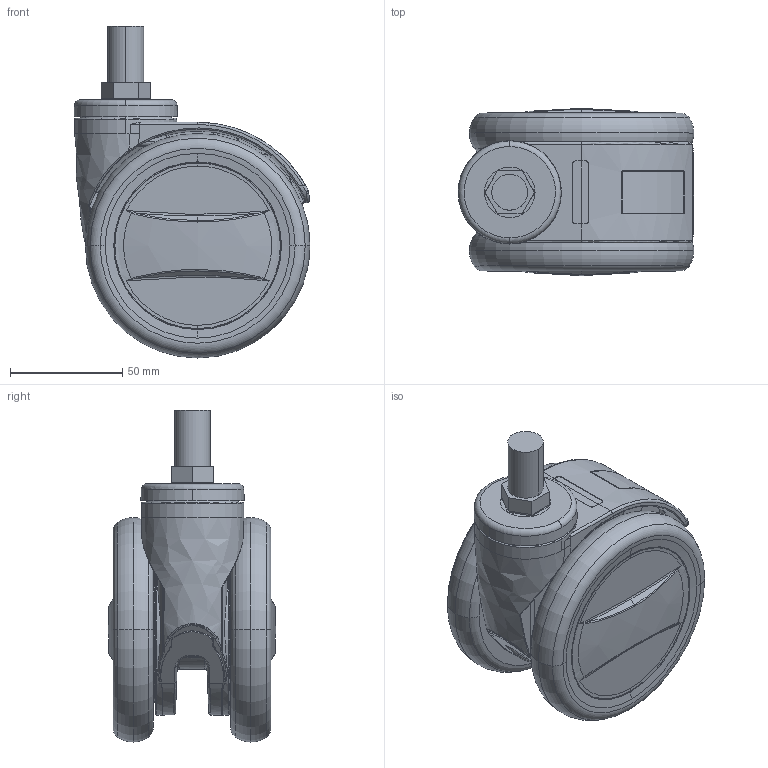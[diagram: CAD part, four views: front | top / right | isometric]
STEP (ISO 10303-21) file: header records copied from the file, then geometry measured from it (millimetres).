
FILE_DESCRIPTION(/* description */ (''),/* implementation_level */ '2;1');
FILE_NAME(/* name */ '80T21_4_F.stp',/* time_stamp */ '2022-10-17T16:00:21+08:00',/* author */ (''),/* organization */ (''),/* preprocessor_version */ 'ST-DEVELOPER v14',/* originating_system */ 'SIEMENS PLM Software NX 8.0',/* authorisation */ '');
FILE_SCHEMA (('AUTOMOTIVE_DESIGN { 1 0 10303 214 3 1 1 1 }'));
Length unit declared in the file: millimetre
Products named in the file (1): 80T21_4_F
Bounding box: 105.02 x 74.5 x 147.86 mm (x, y, z)
Volume: 327151.1 mm3; surface area: 160478.4 mm2
Topology: 1 solids, 2 shells, 3211 faces, 9374 edges, 6229 vertices
Faces by surface type: plane 1329, cylinder 1130, cone 342, bspline 236, torus 156, sphere 18
Entity records: 129160 total; most frequent: CARTESIAN_POINT 45746, ORIENTED_EDGE 19080, DIRECTION 16208, EDGE_CURVE 9540, VERTEX_POINT 6401, AXIS2_PLACEMENT_3D 6129, LINE 3950, VECTOR 3950
